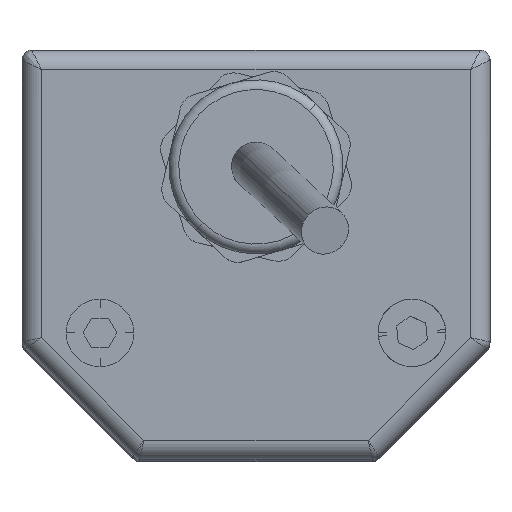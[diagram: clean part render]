
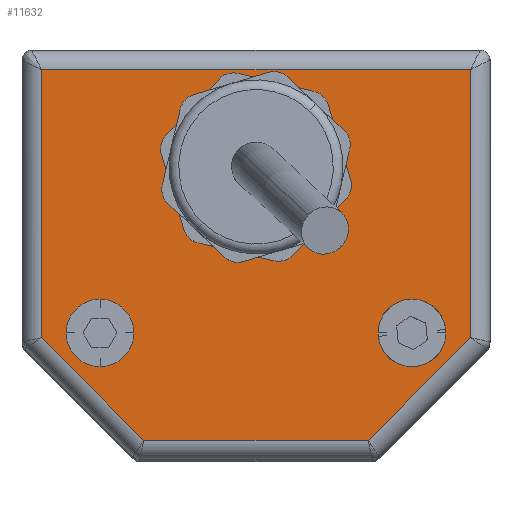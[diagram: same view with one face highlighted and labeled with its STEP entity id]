
A CAD part, top view. The second image highlights one B-rep face of the part: STEP entity #11632.
In plain terms, the highlighted planar face has unit normal (0, 0, 1).
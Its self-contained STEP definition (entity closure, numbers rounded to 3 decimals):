
#33 = EDGE_CURVE ( 'NONE', #7087, #828, #8228, .T. ) ;
#71 = FACE_BOUND ( 'NONE', #5864, .T. ) ;
#159 = DIRECTION ( 'NONE',  ( 0., 0., 1. ) ) ;
#298 = LINE ( 'NONE', #4095, #2257 ) ;
#828 = VERTEX_POINT ( 'NONE', #9069 ) ;
#970 = VECTOR ( 'NONE', #1095, 1000. ) ;
#1005 = CARTESIAN_POINT ( 'NONE',  ( 0., -10., 8. ) ) ;
#1006 = DIRECTION ( 'NONE',  ( 0., 0., 1. ) ) ;
#1095 = DIRECTION ( 'NONE',  ( 0.707, 0.707, 0. ) ) ;
#1184 = VECTOR ( 'NONE', #4371, 1000. ) ;
#1233 = CARTESIAN_POINT ( 'NONE',  ( 16., -27., 8. ) ) ;
#1384 = PLANE ( 'NONE',  #5552 ) ;
#1392 = DIRECTION ( 'NONE',  ( 1., 0., 0. ) ) ;
#1485 = LINE ( 'NONE', #3973, #14898 ) ;
#1553 = DIRECTION ( 'NONE',  ( 0., 1., 0. ) ) ;
#1870 = VERTEX_POINT ( 'NONE', #13148 ) ;
#1950 = EDGE_CURVE ( 'NONE', #15247, #8484, #14600, .T. ) ;
#2058 = EDGE_CURVE ( 'NONE', #8338, #13105, #9615, .T. ) ;
#2257 = VECTOR ( 'NONE', #9457, 1000. ) ;
#2406 = ORIENTED_EDGE ( 'NONE', *, *, #33, .T. ) ;
#2481 = EDGE_CURVE ( 'NONE', #13105, #13596, #8856, .T. ) ;
#2789 = CARTESIAN_POINT ( 'NONE',  ( 11.5, -38., 8. ) ) ;
#2876 = CARTESIAN_POINT ( 'NONE',  ( 0., -10., 8. ) ) ;
#3035 = CARTESIAN_POINT ( 'NONE',  ( 0., 0., 8. ) ) ;
#3167 = CARTESIAN_POINT ( 'NONE',  ( -5.75, -10., 8. ) ) ;
#3290 = ORIENTED_EDGE ( 'NONE', *, *, #7634, .T. ) ;
#3331 = EDGE_LOOP ( 'NONE', ( #13965, #12347 ) ) ;
#3476 = CIRCLE ( 'NONE', #11301, 3.47 ) ;
#3599 = EDGE_CURVE ( 'NONE', #5034, #1870, #14855, .T. ) ;
#3643 = DIRECTION ( 'NONE',  ( 0., 0., -1. ) ) ;
#3973 = CARTESIAN_POINT ( 'NONE',  ( -24.75, -24.75, 8. ) ) ;
#4034 = VECTOR ( 'NONE', #13230, 1000. ) ;
#4095 = CARTESIAN_POINT ( 'NONE',  ( 0., -38., 8. ) ) ;
#4319 = ORIENTED_EDGE ( 'NONE', *, *, #2481, .T. ) ;
#4371 = DIRECTION ( 'NONE',  ( -1., 0., 0. ) ) ;
#4662 = EDGE_LOOP ( 'NONE', ( #14387, #4319, #13959, #2406, #3290, #13279 ) ) ;
#4889 = DIRECTION ( 'NONE',  ( 1., 0., 0. ) ) ;
#5034 = VERTEX_POINT ( 'NONE', #9691 ) ;
#5552 = AXIS2_PLACEMENT_3D ( 'NONE', #11376, #159, #15171 ) ;
#5864 = EDGE_LOOP ( 'NONE', ( #9651, #9645 ) ) ;
#5916 = EDGE_CURVE ( 'NONE', #13605, #8338, #298, .T. ) ;
#5971 = VECTOR ( 'NONE', #1553, 1000. ) ;
#6012 = ORIENTED_EDGE ( 'NONE', *, *, #12645, .F. ) ;
#6051 = VERTEX_POINT ( 'NONE', #3167 ) ;
#6245 = DIRECTION ( 'NONE',  ( 0., 0., 1. ) ) ;
#6297 = AXIS2_PLACEMENT_3D ( 'NONE', #1005, #3643, #9763 ) ;
#6774 = DIRECTION ( 'NONE',  ( 0., 0., 1. ) ) ;
#6992 = AXIS2_PLACEMENT_3D ( 'NONE', #9597, #1006, #7082 ) ;
#7082 = DIRECTION ( 'NONE',  ( 1., 0., 0. ) ) ;
#7087 = VERTEX_POINT ( 'NONE', #15467 ) ;
#7254 = CARTESIAN_POINT ( 'NONE',  ( 24.75, -24.75, 8. ) ) ;
#7634 = EDGE_CURVE ( 'NONE', #828, #13605, #1485, .T. ) ;
#7699 = CARTESIAN_POINT ( 'NONE',  ( 22., 0., 8. ) ) ;
#8228 = LINE ( 'NONE', #15860, #4034 ) ;
#8338 = VERTEX_POINT ( 'NONE', #2789 ) ;
#8436 = CARTESIAN_POINT ( 'NONE',  ( 12.53, -27., 8. ) ) ;
#8484 = VERTEX_POINT ( 'NONE', #13651 ) ;
#8842 = FACE_OUTER_BOUND ( 'NONE', #4662, .T. ) ;
#8856 = LINE ( 'NONE', #7699, #5971 ) ;
#8861 = DIRECTION ( 'NONE',  ( 0., 0., -1. ) ) ;
#9069 = CARTESIAN_POINT ( 'NONE',  ( -22., -27.5, 8. ) ) ;
#9178 = CARTESIAN_POINT ( 'NONE',  ( 22., 0., 8. ) ) ;
#9457 = DIRECTION ( 'NONE',  ( 1., 0., 0. ) ) ;
#9597 = CARTESIAN_POINT ( 'NONE',  ( -16., -27., 8. ) ) ;
#9615 = LINE ( 'NONE', #7254, #970 ) ;
#9645 = ORIENTED_EDGE ( 'NONE', *, *, #10080, .T. ) ;
#9651 = ORIENTED_EDGE ( 'NONE', *, *, #16087, .T. ) ;
#9691 = CARTESIAN_POINT ( 'NONE',  ( -19.47, -27., 8. ) ) ;
#9763 = DIRECTION ( 'NONE',  ( 1., 0., 0. ) ) ;
#10015 = DIRECTION ( 'NONE',  ( 0.707, -0.707, 0. ) ) ;
#10080 = EDGE_CURVE ( 'NONE', #6051, #14746, #11252, .T. ) ;
#10379 = AXIS2_PLACEMENT_3D ( 'NONE', #14222, #6774, #4889 ) ;
#10772 = CARTESIAN_POINT ( 'NONE',  ( 22., -27.5, 8. ) ) ;
#11252 = CIRCLE ( 'NONE', #6297, 5.75 ) ;
#11301 = AXIS2_PLACEMENT_3D ( 'NONE', #1233, #6245, #1392 ) ;
#11376 = CARTESIAN_POINT ( 'NONE',  ( 0., 0., 8. ) ) ;
#11625 = DIRECTION ( 'NONE',  ( 0., 0., 1. ) ) ;
#11632 = ADVANCED_FACE ( 'NONE', ( #71, #8842, #13844, #12600 ), #1384, .T. ) ;
#11900 = AXIS2_PLACEMENT_3D ( 'NONE', #2876, #8861, #13932 ) ;
#12160 = CIRCLE ( 'NONE', #11900, 5.75 ) ;
#12347 = ORIENTED_EDGE ( 'NONE', *, *, #3599, .F. ) ;
#12553 = CARTESIAN_POINT ( 'NONE',  ( 5.75, -10., 8. ) ) ;
#12600 = FACE_BOUND ( 'NONE', #15627, .T. ) ;
#12615 = DIRECTION ( 'NONE',  ( 1., 0., 0. ) ) ;
#12645 = EDGE_CURVE ( 'NONE', #8484, #15247, #3476, .T. ) ;
#12990 = ORIENTED_EDGE ( 'NONE', *, *, #1950, .F. ) ;
#13105 = VERTEX_POINT ( 'NONE', #10772 ) ;
#13148 = CARTESIAN_POINT ( 'NONE',  ( -12.53, -27., 8. ) ) ;
#13230 = DIRECTION ( 'NONE',  ( 0., -1., 0. ) ) ;
#13279 = ORIENTED_EDGE ( 'NONE', *, *, #5916, .T. ) ;
#13482 = CIRCLE ( 'NONE', #14543, 3.47 ) ;
#13596 = VERTEX_POINT ( 'NONE', #9178 ) ;
#13605 = VERTEX_POINT ( 'NONE', #15513 ) ;
#13651 = CARTESIAN_POINT ( 'NONE',  ( 19.47, -27., 8. ) ) ;
#13844 = FACE_BOUND ( 'NONE', #3331, .T. ) ;
#13857 = CARTESIAN_POINT ( 'NONE',  ( -16., -27., 8. ) ) ;
#13932 = DIRECTION ( 'NONE',  ( 1., 0., 0. ) ) ;
#13959 = ORIENTED_EDGE ( 'NONE', *, *, #16158, .T. ) ;
#13965 = ORIENTED_EDGE ( 'NONE', *, *, #15993, .F. ) ;
#14188 = LINE ( 'NONE', #3035, #1184 ) ;
#14222 = CARTESIAN_POINT ( 'NONE',  ( 16., -27., 8. ) ) ;
#14387 = ORIENTED_EDGE ( 'NONE', *, *, #2058, .T. ) ;
#14543 = AXIS2_PLACEMENT_3D ( 'NONE', #13857, #11625, #12615 ) ;
#14600 = CIRCLE ( 'NONE', #10379, 3.47 ) ;
#14746 = VERTEX_POINT ( 'NONE', #12553 ) ;
#14855 = CIRCLE ( 'NONE', #6992, 3.47 ) ;
#14898 = VECTOR ( 'NONE', #10015, 1000. ) ;
#15171 = DIRECTION ( 'NONE',  ( 1., 0., 0. ) ) ;
#15247 = VERTEX_POINT ( 'NONE', #8436 ) ;
#15467 = CARTESIAN_POINT ( 'NONE',  ( -22., 0., 8. ) ) ;
#15513 = CARTESIAN_POINT ( 'NONE',  ( -11.5, -38., 8. ) ) ;
#15627 = EDGE_LOOP ( 'NONE', ( #6012, #12990 ) ) ;
#15860 = CARTESIAN_POINT ( 'NONE',  ( -22., 0., 8. ) ) ;
#15993 = EDGE_CURVE ( 'NONE', #1870, #5034, #13482, .T. ) ;
#16087 = EDGE_CURVE ( 'NONE', #14746, #6051, #12160, .T. ) ;
#16158 = EDGE_CURVE ( 'NONE', #13596, #7087, #14188, .T. ) ;
